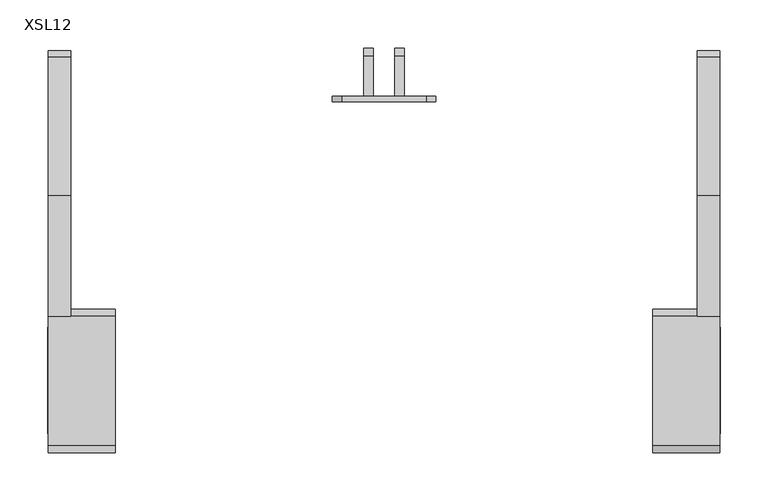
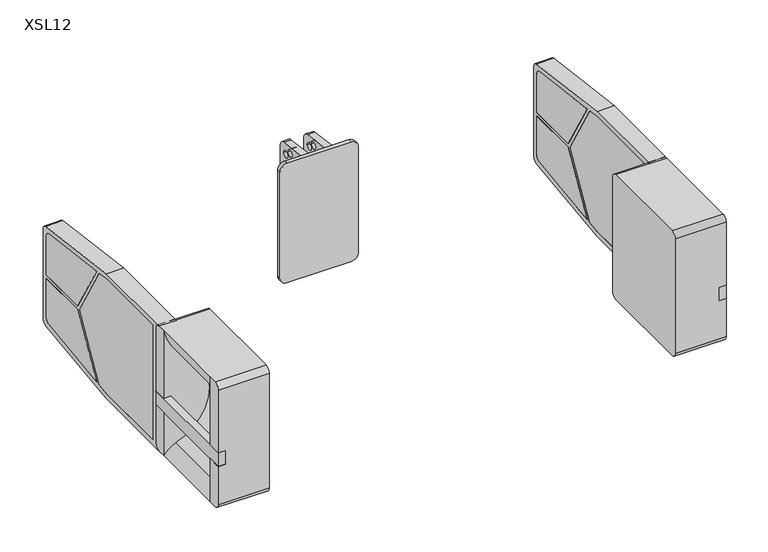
"""IFC4 building model written with IfcOpenShell, lengths in millimetres: proxy geometry, d&b SL-Series XSL : XSL12."""

from ifc_helpers import new_model, si_unit, point, frame, frame_2d, origin, place, context, project, spatial, polyline, circle_curve, trimmed, segment, composite_curve, outline, extrude, source, transform, mapped, element, save
from ifc_brep_helpers import plane_surface, cylinder_surface, revolved_surface, advanced_brep


def xsl12_895e49e3(model_context):
    return source(origin(), model_context, "Body", "SolidModel", [
        extrude(outline(composite_curve([segment(trimmed(circle_curve(frame_2d((119.6410514, 66.6180129)), 7.5), [point((120.5875427, 74.0580501))], [point((127.1410514, 66.6180129))], False, "CARTESIAN"), True, "CONTINUOUS"), segment(polyline([(127.1410514, 66.6180129), (127.1410514, 10.5484681), (51.7834, 10.5484681), (6.7553622, 88.5393174), (120.5875427, 74.0580501)]), True, "CONTINUOUS")], self_intersect=False)), frame((150.0, 0.0, 0.0), z_axis=(1.0, 0.0, 0.0), x_axis=(0.0, 1.0, 0.0)), (0.0, 0.0, 1.0), 23.6),
        extrude(outline(composite_curve([segment(polyline([(120.5875427, -57.9611139), (6.7552861, -72.4423908), (51.7833295, 5.5484681), (127.1410514, 5.5484681), (127.1410514, -50.5210766)]), True, "CONTINUOUS"), segment(trimmed(circle_curve(frame_2d((119.6410514, -50.5210766)), 7.5), [point((127.1410514, -50.5210766))], [point((120.5875427, -57.9611139))], False, "CARTESIAN"), True, "CONTINUOUS")], self_intersect=False)), frame((150.0, 0.0, 0.0), z_axis=(1.0, 0.0, 0.0), x_axis=(0.0, 1.0, 0.0)), (0.0, 0.0, 1.0), 23.6),
        extrude(outline(polyline([(-126.8744027, 91.5485291), (-16.8989996, 91.5485291), (0.5241915, 89.3320216), (47.4532377, 8.0485291), (0.5241154, -73.2350951), (-16.8980401, -75.4514709), (-126.8744027, -75.4514709), (-126.8744027, 91.5485291)])), frame((150.0, 0.0, 0.0), z_axis=(1.0, 0.0, 0.0), x_axis=(0.0, 1.0, 0.0)), (0.0, 0.0, 1.0), 23.6),
        extrude(outline(composite_curve([segment(trimmed(circle_curve(frame_2d((-141.8744027, -75.4514709)), 7.5), [point((-141.8744027, -82.9514709))], [point((-134.3744027, -75.4514709))], True, "CARTESIAN"), True, "CONTINUOUS"), segment(polyline([(-134.3744027, -75.4514709), (-134.3744027, 91.5485291)]), True, "CONTINUOUS"), segment(trimmed(circle_curve(frame_2d((-141.8744027, 91.5485291)), 7.5), [point((-134.3744027, 91.5485291))], [point((-141.8744027, 99.0485291))], True, "CARTESIAN"), True, "CONTINUOUS"), segment(polyline([(-141.8744027, 99.0485291), (-16.4238546, 99.0485291), (128.0875427, 80.6643766)]), True, "CONTINUOUS"), segment(trimmed(circle_curve(frame_2d((127.1410514, 73.2243394)), 7.5), [point((128.0875427, 80.6643766))], [point((134.6410514, 73.2243394))], False, "CARTESIAN"), True, "CONTINUOUS"), segment(polyline([(134.6410514, 73.2243394), (134.6410514, -57.1274031)]), True, "CONTINUOUS"), segment(trimmed(circle_curve(frame_2d((127.1410514, -57.1274031)), 7.5), [point((134.6410514, -57.1274031))], [point((128.0875427, -64.5674404))], False, "CARTESIAN"), True, "CONTINUOUS"), segment(polyline([(128.0875427, -64.5674404), (-16.422895, -82.9514709), (-141.8744027, -82.9514709)]), True, "CONTINUOUS")], self_intersect=False), holes=[polyline([(-126.8744027, 91.5485291), (-126.8744027, -75.4514709), (-16.8980401, -75.4514709), (0.5241154, -73.2350951), (47.4532377, 8.0485291), (0.5241915, 89.3320216), (-16.8989996, 91.5485291), (-126.8744027, 91.5485291)]), composite_curve([segment(polyline([(6.7552861, -72.4423908), (120.5875427, -57.9611139)]), True, "CONTINUOUS"), segment(trimmed(circle_curve(frame_2d((119.6410514, -50.5210766)), 7.5), [point((120.5875427, -57.9611139))], [point((127.1410514, -50.5210766))], True, "CARTESIAN"), True, "CONTINUOUS"), segment(polyline([(127.1410514, -50.5210766), (127.1410514, 5.5484681), (51.7833295, 5.5484681), (6.7552861, -72.4423908)]), True, "CONTINUOUS")], self_intersect=False), composite_curve([segment(polyline([(51.7834, 10.5484681), (127.1410514, 10.5484681), (127.1410514, 66.6180129)]), True, "CONTINUOUS"), segment(trimmed(circle_curve(frame_2d((119.6410514, 66.6180129)), 7.5), [point((127.1410514, 66.6180129))], [point((120.5875427, 74.0580501))], True, "CARTESIAN"), True, "CONTINUOUS"), segment(polyline([(120.5875427, 74.0580501), (6.7553622, 88.5393174), (51.7834, 10.5484681)]), True, "CONTINUOUS")], self_intersect=False)]), frame((150.0, 0.0, 0.0), z_axis=(1.0, 0.0, 0.0), x_axis=(0.0, 1.0, 0.0)), (0.0, 0.0, 1.0), 23.6),
        advanced_brep(
        [(220.0, -283.8744027, -75.4514709), (220.0, -276.3744027, -82.9514709), (220.0, -141.8744027, -82.9514709), (220.0, -134.3744027, -75.4514709), (220.0, -134.3744027, 91.5485291), (220.0, -141.8744027, 99.0485291), (220.0, -276.3744027, 99.0485291), (220.0, -283.8744027, 91.5485291), (150.0, -264.1147345, -82.9514709), (150.0, -276.3744027, -82.9514709), (150.0, -283.8744027, -75.4514709), (150.0, -283.8744027, -19.9757953), (150.0, -264.1147345, -19.9757953), (150.0, -276.3744027, 99.0485291), (150.0, -264.1147345, 99.0485291), (150.0, -264.1147345, 0.0727386), (150.0, -283.8744027, 0.0727386), (150.0, -283.8744027, 91.5485291), (150.0, -153.1340709, -82.9514709), (150.0, -153.1340709, -19.9757953), (150.0, -134.3744027, -19.9757953), (150.0, -134.3744027, -75.4514709), (150.0, -141.8744027, -82.9514709), (150.0, -141.8744027, 99.0485291), (150.0, -134.3744027, 91.5485291), (150.0, -134.3744027, 0.0727386), (150.0, -153.1340709, 0.0727386), (150.0, -153.1340709, 99.0485291), (160.0, -283.8744027, 0.0727386), (160.0, -283.8744027, -19.9757953), (160.0, -264.1147345, 0.0727386), (160.0, -264.1147345, -19.9757953), (181.2028278, -264.1147345, 53.0793139), (166.9361288, -264.1147345, -70.0489199), (166.9361288, -153.1340709, -70.0489199), (181.2028278, -153.1340709, 53.0793139), (160.0, -153.1340709, 0.0727386), (160.0, -153.1340709, -19.9757953), (160.0, -134.3744027, 0.0727386), (160.0, -134.3744027, -19.9757953)],
        [
            (0, 1, circle_curve(frame((220.0, -276.3744027, -75.4514709), z_axis=(1.0, 0.0, 0.0), x_axis=(0.0, -1.0, 0.0)), 7.5)),
            (1, 2),
            (2, 3, circle_curve(frame((220.0, -141.8744027, -75.4514709), z_axis=(1.0, 0.0, 0.0), x_axis=(0.0, -1.0, 0.0)), 7.5)),
            (3, 4),
            (4, 5, circle_curve(frame((220.0, -141.8744027, 91.5485291), z_axis=(1.0, 0.0, 0.0), x_axis=(0.0, -1.0, 0.0)), 7.5)),
            (5, 6),
            (6, 7, circle_curve(frame((220.0, -276.3744027, 91.5485291), z_axis=(1.0, 0.0, 0.0), x_axis=(0.0, -1.0, 0.0)), 7.5)),
            (7, 0),
            (8, 9),
            (9, 10, circle_curve(frame((150.0, -276.3744027, -75.4514709), z_axis=(-1.0, 0.0, 0.0), x_axis=(0.0, -1.0, 0.0)), 7.5)),
            (10, 11),
            (11, 12),
            (12, 8),
            (13, 14),
            (14, 15),
            (15, 16),
            (16, 17),
            (17, 13, circle_curve(frame((150.0, -276.3744027, 91.5485291), z_axis=(-1.0, 0.0, 0.0), x_axis=(0.0, -1.0, 0.0)), 7.5)),
            (18, 19),
            (19, 20),
            (20, 21),
            (21, 22, circle_curve(frame((150.0, -141.8744027, -75.4514709), z_axis=(-1.0, 0.0, 0.0), x_axis=(0.0, -1.0, 0.0)), 7.5)),
            (22, 18),
            (23, 24, circle_curve(frame((150.0, -141.8744027, 91.5485291), z_axis=(-1.0, 0.0, 0.0), x_axis=(0.0, -1.0, 0.0)), 7.5)),
            (24, 25),
            (25, 26),
            (26, 27),
            (27, 23),
            (10, 0),
            (7, 17),
            (16, 28),
            (28, 29),
            (29, 11),
            (1, 9),
            (8, 18),
            (22, 2),
            (5, 23),
            (27, 14),
            (13, 6),
            (15, 30),
            (30, 28),
            (12, 31),
            (31, 30),
            (14, 32, circle_curve(frame((219.0930544, -264.1147345, 112.3727956), z_axis=(0.0, -1.0, 0.0), x_axis=(1.0, 0.0, 0.0)), 70.3660873)),
            (32, 33, circle_curve(frame((144.081976, -264.1147345, -5.0101923), z_axis=(0.0, 1.0, 0.0), x_axis=(1.0, 0.0, 0.0)), 68.9372786)),
            (33, 8, circle_curve(frame((178.3936279, -264.1147345, -102.6548612), z_axis=(0.0, -1.0, 0.0), x_axis=(1.0, 0.0, 0.0)), 34.5604065)),
            (29, 31),
            (18, 34, circle_curve(frame((178.3936279, -153.1340709, -102.6548612), z_axis=(0.0, 1.0, 0.0), x_axis=(1.0, 0.0, 0.0)), 34.5604065)),
            (34, 35, circle_curve(frame((144.081976, -153.1340709, -5.0101923), z_axis=(0.0, -1.0, 0.0), x_axis=(1.0, 0.0, 0.0)), 68.9372786)),
            (35, 27, circle_curve(frame((219.0930544, -153.1340709, 112.3727956), z_axis=(0.0, 1.0, 0.0), x_axis=(1.0, 0.0, 0.0)), 70.3660873)),
            (26, 36),
            (36, 37),
            (37, 19),
            (25, 38),
            (38, 36),
            (20, 39),
            (39, 38),
            (24, 4),
            (3, 21),
            (37, 39),
            (34, 33),
            (32, 35),
        ],
        [
            plane_surface(frame((220.0, -283.8744027, 91.5485291), z_axis=(1.0, 0.0, 0.0), x_axis=(0.0, 0.0, -1.0))),
            plane_surface(frame((150.0, -283.8744027, 91.5485291), z_axis=(-1.0, 0.0, 0.0), x_axis=(0.0, 0.0, 1.0))),
            plane_surface(frame((220.0, -283.8744027, 91.5485291), z_axis=(0.0, -1.0, 0.0), x_axis=(-1.0, 0.0, 0.0))),
            plane_surface(frame((220.0, -276.3744027, -82.9514709), z_axis=(0.0, 0.0, -1.0), x_axis=(-1.0, 0.0, 0.0))),
            plane_surface(frame((220.0, -264.1147345, 99.0485291), z_axis=(0.0, 0.0, 1.0), x_axis=(-1.0, 0.0, 0.0))),
            plane_surface(frame((220.0, -283.8744027, 0.0727386), z_axis=(0.0, 0.0, -1.0), x_axis=(-1.0, 0.0, 0.0))),
            plane_surface(frame((220.0, -264.1147345, 0.0727386), z_axis=(0.0, 1.0, 0.0), x_axis=(-1.0, 0.0, 0.0))),
            plane_surface(frame((220.0, -264.1147345, -19.9757953), z_axis=(0.0, 0.0, 1.0), x_axis=(-1.0, 0.0, 0.0))),
            plane_surface(frame((220.0, -153.1340709, 99.0485291), z_axis=(0.0, -1.0, 0.0), x_axis=(-1.0, 0.0, 0.0))),
            plane_surface(frame((220.0, -153.1340709, 0.0727386), z_axis=(0.0, 0.0, -1.0), x_axis=(-1.0, 0.0, 0.0))),
            plane_surface(frame((220.0, -134.3744027, 0.0727386), z_axis=(0.0, 1.0, 0.0), x_axis=(-1.0, 0.0, 0.0))),
            plane_surface(frame((220.0, -134.3744027, -19.9757953), z_axis=(0.0, 0.0, 1.0), x_axis=(-1.0, 0.0, 0.0))),
            plane_surface(frame((160.0, -257.8744027, -19.9757953), z_axis=(-1.0, 0.0, 0.0), x_axis=(0.0, -1.0, 0.0))),
            revolved_surface(polyline([(213.0192546, -264.1147345, -5.0101923), (213.0192546, -153.1340709, -5.0101923)]), (144.081976, -264.1147345, -5.0101923), (0.0, -1.0, 0.0)),
            cylinder_surface(frame((150.0, -276.3744027, 91.5485291), z_axis=(1.0, 0.0, 0.0), x_axis=(0.0, -1.0, 0.0)), 7.5),
            cylinder_surface(frame((150.0, -276.3744027, -75.4514709), z_axis=(1.0, 0.0, 0.0), x_axis=(0.0, -1.0, 0.0)), 7.5),
            cylinder_surface(frame((150.0, -141.8744027, 91.5485291), z_axis=(1.0, 0.0, 0.0), x_axis=(0.0, -1.0, 0.0)), 7.5),
            cylinder_surface(frame((150.0, -141.8744027, -75.4514709), z_axis=(1.0, 0.0, 0.0), x_axis=(0.0, -1.0, 0.0)), 7.5),
            cylinder_surface(frame((219.0930544, -264.1147345, 112.3727956), z_axis=(0.0, 1.0, 0.0), x_axis=(1.0, 0.0, 0.0)), 70.3660873),
            cylinder_surface(frame((178.3936279, -264.1147345, -102.6548612), z_axis=(0.0, 1.0, 0.0), x_axis=(1.0, 0.0, 0.0)), 34.5604065),
        ],
        [
            (0, [[1, 2, 3, 4, 5, 6, 7, 8]]),
            (1, [[9, 10, 11, 12, 13]]),
            (1, [[14, 15, 16, 17, 18]]),
            (1, [[19, 20, 21, 22, 23]]),
            (1, [[24, 25, 26, 27, 28]]),
            (2, [[-11, 29, -8, 30, -17, 31, 32, 33]]),
            (3, [[-2, 34, -9, 35, -23, 36]]),
            (4, [[-6, 37, -28, 38, -14, 39]]),
            (5, [[-16, 40, 41, -31]]),
            (6, [[-13, 42, 43, -40, -15, 44, 45, 46]]),
            (7, [[-12, -33, 47, -42]]),
            (8, [[-19, 48, 49, 50, -27, 51, 52, 53]]),
            (9, [[-26, 54, 55, -51]]),
            (10, [[-21, 56, 57, -54, -25, 58, -4, 59]]),
            (11, [[-20, -53, 60, -56]]),
            (12, [[-32, -41, -43, -47]]),
            (12, [[-52, -55, -57, -60]]),
            (13, [[61, -45, 62, -49]]),
            (14, [[-7, -39, -18, -30]]),
            (15, [[-1, -29, -10, -34]]),
            (16, [[-5, -58, -24, -37]]),
            (17, [[-3, -36, -22, -59]]),
            (18, [[-38, -50, -62, -44]]),
            (19, [[-35, -46, -61, -48]]),
        ],
    ),
        extrude(outline(polyline([(160.0, -134.3744027), (160.0, -283.8744027), (150.0, -283.8744027), (150.0, -134.3744027), (160.0, -134.3744027)])), frame((0.0, 0.0, -19.9757953), z_axis=(0.0, 0.0, 1.0), x_axis=(1.0, 0.0, 0.0)), (0.0, 0.0, 1.0), 20.0485339),
        extrude(outline(composite_curve([segment(polyline([(120.5875427, -57.9611139), (6.7552861, -72.4423908), (51.7833295, 5.5484681), (127.1410514, 5.5484681), (127.1410514, -50.5210766)]), True, "CONTINUOUS"), segment(trimmed(circle_curve(frame_2d((119.6410514, -50.5210766)), 7.5), [point((127.1410514, -50.5210766))], [point((120.5875427, -57.9611139))], False, "CARTESIAN"), True, "CONTINUOUS")], self_intersect=False)), frame((826.4, 0.0, 0.0), z_axis=(1.0, 0.0, 0.0), x_axis=(0.0, 1.0, 0.0)), (0.0, 0.0, 1.0), 23.6),
        extrude(outline(composite_curve([segment(trimmed(circle_curve(frame_2d((119.6410514, 66.6180129)), 7.5), [point((120.5875427, 74.0580501))], [point((127.1410514, 66.6180129))], False, "CARTESIAN"), True, "CONTINUOUS"), segment(polyline([(127.1410514, 66.6180129), (127.1410514, 10.5484681), (51.7834, 10.5484681), (6.7553622, 88.5393174), (120.5875427, 74.0580501)]), True, "CONTINUOUS")], self_intersect=False)), frame((826.4, 0.0, 0.0), z_axis=(1.0, 0.0, 0.0), x_axis=(0.0, 1.0, 0.0)), (0.0, 0.0, 1.0), 23.6),
        extrude(outline(polyline([(-126.8744027, 91.5485291), (-16.8989996, 91.5485291), (0.5241915, 89.3320216), (47.4532377, 8.0485291), (0.5241154, -73.2350951), (-16.8980401, -75.4514709), (-126.8744027, -75.4514709), (-126.8744027, 91.5485291)])), frame((826.4, 0.0, 0.0), z_axis=(1.0, 0.0, 0.0), x_axis=(0.0, 1.0, 0.0)), (0.0, 0.0, 1.0), 23.6),
        extrude(outline(composite_curve([segment(trimmed(circle_curve(frame_2d((-141.8744027, -75.4514709)), 7.5), [point((-141.8744027, -82.9514709))], [point((-134.3744027, -75.4514709))], True, "CARTESIAN"), True, "CONTINUOUS"), segment(polyline([(-134.3744027, -75.4514709), (-134.3744027, 91.5485291)]), True, "CONTINUOUS"), segment(trimmed(circle_curve(frame_2d((-141.8744027, 91.5485291)), 7.5), [point((-134.3744027, 91.5485291))], [point((-141.8744027, 99.0485291))], True, "CARTESIAN"), True, "CONTINUOUS"), segment(polyline([(-141.8744027, 99.0485291), (-16.4238546, 99.0485291), (128.0875427, 80.6643766)]), True, "CONTINUOUS"), segment(trimmed(circle_curve(frame_2d((127.1410514, 73.2243394)), 7.5), [point((128.0875427, 80.6643766))], [point((134.6410514, 73.2243394))], False, "CARTESIAN"), True, "CONTINUOUS"), segment(polyline([(134.6410514, 73.2243394), (134.6410514, -57.1274031)]), True, "CONTINUOUS"), segment(trimmed(circle_curve(frame_2d((127.1410514, -57.1274031)), 7.5), [point((134.6410514, -57.1274031))], [point((128.0875427, -64.5674404))], False, "CARTESIAN"), True, "CONTINUOUS"), segment(polyline([(128.0875427, -64.5674404), (-16.422895, -82.9514709), (-141.8744027, -82.9514709)]), True, "CONTINUOUS")], self_intersect=False), holes=[polyline([(-126.8744027, 91.5485291), (-126.8744027, -75.4514709), (-16.8980401, -75.4514709), (0.5241154, -73.2350951), (47.4532377, 8.0485291), (0.5241915, 89.3320216), (-16.8989996, 91.5485291), (-126.8744027, 91.5485291)]), composite_curve([segment(polyline([(6.7552861, -72.4423908), (120.5875427, -57.9611139)]), True, "CONTINUOUS"), segment(trimmed(circle_curve(frame_2d((119.6410514, -50.5210766)), 7.5), [point((120.5875427, -57.9611139))], [point((127.1410514, -50.5210766))], True, "CARTESIAN"), True, "CONTINUOUS"), segment(polyline([(127.1410514, -50.5210766), (127.1410514, 5.5484681), (51.7833295, 5.5484681), (6.7552861, -72.4423908)]), True, "CONTINUOUS")], self_intersect=False), composite_curve([segment(polyline([(51.7834, 10.5484681), (127.1410514, 10.5484681), (127.1410514, 66.6180129)]), True, "CONTINUOUS"), segment(trimmed(circle_curve(frame_2d((119.6410514, 66.6180129)), 7.5), [point((127.1410514, 66.6180129))], [point((120.5875427, 74.0580501))], True, "CARTESIAN"), True, "CONTINUOUS"), segment(polyline([(120.5875427, 74.0580501), (6.7553622, 88.5393174), (51.7834, 10.5484681)]), True, "CONTINUOUS")], self_intersect=False)]), frame((826.4, 0.0, 0.0), z_axis=(1.0, 0.0, 0.0), x_axis=(0.0, 1.0, 0.0)), (0.0, 0.0, 1.0), 23.6),
        advanced_brep(
        [(780.0, -283.8744027, -75.4514709), (780.0, -283.8744027, 91.5485291), (780.0, -276.3744027, 99.0485291), (780.0, -141.8744027, 99.0485291), (780.0, -134.3744027, 91.5485291), (780.0, -134.3744027, -75.4514709), (780.0, -141.8744027, -82.9514709), (780.0, -276.3744027, -82.9514709), (850.0, -264.1147345, -82.9514709), (850.0, -264.1147345, -19.9757953), (850.0, -283.8744027, -19.9757953), (850.0, -283.8744027, -75.4514709), (850.0, -276.3744027, -82.9514709), (850.0, -141.8744027, 99.0485291), (850.0, -153.1340709, 99.0485291), (850.0, -153.1340709, 0.0727386), (850.0, -134.3744027, 0.0727386), (850.0, -134.3744027, 91.5485291), (850.0, -153.1340709, -82.9514709), (850.0, -141.8744027, -82.9514709), (850.0, -134.3744027, -75.4514709), (850.0, -134.3744027, -19.9757953), (850.0, -153.1340709, -19.9757953), (850.0, -276.3744027, 99.0485291), (850.0, -283.8744027, 91.5485291), (850.0, -283.8744027, 0.0727386), (850.0, -264.1147345, 0.0727386), (850.0, -264.1147345, 99.0485291), (840.0, -283.8744027, -19.9757953), (840.0, -283.8744027, 0.0727386), (840.0, -264.1147345, 0.0727386), (833.0638712, -264.1147345, -70.0489199), (818.7971722, -264.1147345, 53.0793139), (840.0, -264.1147345, -19.9757953), (840.0, -153.1340709, -19.9757953), (840.0, -153.1340709, 0.0727386), (818.7971722, -153.1340709, 53.0793139), (833.0638712, -153.1340709, -70.0489199), (840.0, -134.3744027, 0.0727386), (840.0, -134.3744027, -19.9757953)],
        [
            (0, 1),
            (1, 2, circle_curve(frame((780.0, -276.3744027, 91.5485291), z_axis=(-1.0, 0.0, 0.0), x_axis=(0.0, -1.0, 0.0)), 7.5)),
            (2, 3),
            (3, 4, circle_curve(frame((780.0, -141.8744027, 91.5485291), z_axis=(-1.0, 0.0, 0.0), x_axis=(0.0, -1.0, 0.0)), 7.5)),
            (4, 5),
            (5, 6, circle_curve(frame((780.0, -141.8744027, -75.4514709), z_axis=(-1.0, 0.0, 0.0), x_axis=(0.0, -1.0, 0.0)), 7.5)),
            (6, 7),
            (7, 0, circle_curve(frame((780.0, -276.3744027, -75.4514709), z_axis=(-1.0, 0.0, 0.0), x_axis=(0.0, -1.0, 0.0)), 7.5)),
            (8, 9),
            (9, 10),
            (10, 11),
            (11, 12, circle_curve(frame((850.0, -276.3744027, -75.4514709), z_axis=(1.0, 0.0, 0.0), x_axis=(0.0, -1.0, 0.0)), 7.5)),
            (12, 8),
            (13, 14),
            (14, 15),
            (15, 16),
            (16, 17),
            (17, 13, circle_curve(frame((850.0, -141.8744027, 91.5485291), z_axis=(1.0, 0.0, 0.0), x_axis=(0.0, -1.0, 0.0)), 7.5)),
            (18, 19),
            (19, 20, circle_curve(frame((850.0, -141.8744027, -75.4514709), z_axis=(1.0, 0.0, 0.0), x_axis=(0.0, -1.0, 0.0)), 7.5)),
            (20, 21),
            (21, 22),
            (22, 18),
            (23, 24, circle_curve(frame((850.0, -276.3744027, 91.5485291), z_axis=(1.0, 0.0, 0.0), x_axis=(0.0, -1.0, 0.0)), 7.5)),
            (24, 25),
            (25, 26),
            (26, 27),
            (27, 23),
            (10, 28),
            (28, 29),
            (29, 25),
            (24, 1),
            (0, 11),
            (6, 19),
            (18, 8),
            (12, 7),
            (2, 23),
            (27, 14),
            (13, 3),
            (29, 30),
            (30, 26),
            (8, 31, circle_curve(frame((821.6063721, -264.1147345, -102.6548612), z_axis=(0.0, -1.0, 0.0), x_axis=(-1.0, 0.0, 0.0)), 34.5604065)),
            (31, 32, circle_curve(frame((855.918024, -264.1147345, -5.0101923), z_axis=(0.0, 1.0, 0.0), x_axis=(-1.0, 0.0, 0.0)), 68.9372786)),
            (32, 27, circle_curve(frame((780.9069456, -264.1147345, 112.3727956), z_axis=(0.0, -1.0, 0.0), x_axis=(-1.0, 0.0, 0.0)), 70.3660873)),
            (30, 33),
            (33, 9),
            (33, 28),
            (22, 34),
            (34, 35),
            (35, 15),
            (14, 36, circle_curve(frame((780.9069456, -153.1340709, 112.3727956), z_axis=(0.0, 1.0, 0.0), x_axis=(-1.0, 0.0, 0.0)), 70.3660873)),
            (36, 37, circle_curve(frame((855.918024, -153.1340709, -5.0101923), z_axis=(0.0, -1.0, 0.0), x_axis=(-1.0, 0.0, 0.0)), 68.9372786)),
            (37, 18, circle_curve(frame((821.6063721, -153.1340709, -102.6548612), z_axis=(0.0, 1.0, 0.0), x_axis=(-1.0, 0.0, 0.0)), 34.5604065)),
            (35, 38),
            (38, 16),
            (20, 5),
            (4, 17),
            (38, 39),
            (39, 21),
            (39, 34),
            (36, 32),
            (31, 37),
        ],
        [
            plane_surface(frame((780.0, -283.8744027, 91.5485291), z_axis=(-1.0, 0.0, 0.0), x_axis=(0.0, 0.0, -1.0))),
            plane_surface(frame((850.0, -283.8744027, 91.5485291), z_axis=(1.0, 0.0, 0.0), x_axis=(0.0, 0.0, 1.0))),
            plane_surface(frame((780.0, -283.8744027, 91.5485291), z_axis=(0.0, -1.0, 0.0), x_axis=(1.0, 0.0, 0.0))),
            plane_surface(frame((780.0, -276.3744027, -82.9514709), z_axis=(0.0, 0.0, -1.0), x_axis=(1.0, 0.0, 0.0))),
            plane_surface(frame((780.0, -264.1147345, 99.0485291), z_axis=(0.0, 0.0, 1.0), x_axis=(1.0, 0.0, 0.0))),
            plane_surface(frame((780.0, -283.8744027, 0.0727386), z_axis=(0.0, 0.0, -1.0), x_axis=(1.0, 0.0, 0.0))),
            plane_surface(frame((780.0, -264.1147345, 0.0727386), z_axis=(0.0, 1.0, 0.0), x_axis=(1.0, 0.0, 0.0))),
            plane_surface(frame((780.0, -264.1147345, -19.9757953), z_axis=(0.0, 0.0, 1.0), x_axis=(1.0, 0.0, 0.0))),
            plane_surface(frame((780.0, -153.1340709, 99.0485291), z_axis=(0.0, -1.0, 0.0), x_axis=(1.0, 0.0, 0.0))),
            plane_surface(frame((780.0, -153.1340709, 0.0727386), z_axis=(0.0, 0.0, -1.0), x_axis=(1.0, 0.0, 0.0))),
            plane_surface(frame((780.0, -134.3744027, 0.0727386), z_axis=(0.0, 1.0, 0.0), x_axis=(1.0, 0.0, 0.0))),
            plane_surface(frame((780.0, -134.3744027, -19.9757953), z_axis=(0.0, 0.0, 1.0), x_axis=(1.0, 0.0, 0.0))),
            plane_surface(frame((840.0, -257.8744027, -19.9757953), z_axis=(1.0, 0.0, 0.0), x_axis=(0.0, -1.0, 0.0))),
            revolved_surface(polyline([(786.9807453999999, -264.1147345, -5.0101923), (786.9807453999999, -153.1340709, -5.0101923)]), (855.918024, -264.1147345, -5.0101923), (0.0, -1.0, 0.0)),
            cylinder_surface(frame((850.0, -276.3744027, 91.5485291), z_axis=(-1.0, 0.0, 0.0), x_axis=(0.0, -1.0, 0.0)), 7.5),
            cylinder_surface(frame((850.0, -276.3744027, -75.4514709), z_axis=(-1.0, 0.0, 0.0), x_axis=(0.0, -1.0, 0.0)), 7.5),
            cylinder_surface(frame((850.0, -141.8744027, 91.5485291), z_axis=(-1.0, 0.0, 0.0), x_axis=(0.0, -1.0, 0.0)), 7.5),
            cylinder_surface(frame((850.0, -141.8744027, -75.4514709), z_axis=(-1.0, 0.0, 0.0), x_axis=(0.0, -1.0, 0.0)), 7.5),
            cylinder_surface(frame((780.9069456, -264.1147345, 112.3727956), z_axis=(0.0, 1.0, 0.0), x_axis=(-1.0, 0.0, 0.0)), 70.3660873),
            cylinder_surface(frame((821.6063721, -264.1147345, -102.6548612), z_axis=(0.0, 1.0, 0.0), x_axis=(-1.0, 0.0, 0.0)), 34.5604065),
        ],
        [
            (0, [[1, 2, 3, 4, 5, 6, 7, 8]]),
            (1, [[9, 10, 11, 12, 13]]),
            (1, [[14, 15, 16, 17, 18]]),
            (1, [[19, 20, 21, 22, 23]]),
            (1, [[24, 25, 26, 27, 28]]),
            (2, [[29, 30, 31, -25, 32, -1, 33, -11]]),
            (3, [[34, -19, 35, -13, 36, -7]]),
            (4, [[37, -28, 38, -14, 39, -3]]),
            (5, [[-31, 40, 41, -26]]),
            (6, [[42, 43, 44, -27, -41, 45, 46, -9]]),
            (7, [[-46, 47, -29, -10]]),
            (8, [[48, 49, 50, -15, 51, 52, 53, -23]]),
            (9, [[-50, 54, 55, -16]]),
            (10, [[56, -5, 57, -17, -55, 58, 59, -21]]),
            (11, [[-59, 60, -48, -22]]),
            (12, [[-47, -45, -40, -30]]),
            (12, [[-60, -58, -54, -49]]),
            (13, [[-52, 61, -43, 62]]),
            (14, [[-32, -24, -37, -2]]),
            (15, [[-36, -12, -33, -8]]),
            (16, [[-39, -18, -57, -4]]),
            (17, [[-56, -20, -34, -6]]),
            (18, [[-44, -61, -51, -38]]),
            (19, [[-53, -62, -42, -35]]),
        ],
    ),
        extrude(outline(polyline([(840.0, -134.3744027), (850.0, -134.3744027), (850.0, -283.8744027), (840.0, -283.8744027), (840.0, -134.3744027)])), frame((0.0, 0.0, -19.9757953), z_axis=(0.0, 0.0, 1.0), x_axis=(1.0, 0.0, 0.0)), (0.0, 0.0, 1.0), 20.0485339),
        extrude(outline(composite_curve([segment(polyline([(87.3755973, 93.0715178), (128.8875869, 87.7905262)]), True, "CONTINUOUS"), segment(trimmed(circle_curve(frame_2d((127.6255973, 77.8704767)), 10.0), [point((128.8875869, 87.7905262))], [point((137.6255973, 77.8704767))], False, "CARTESIAN"), True, "CONTINUOUS"), segment(polyline([(137.6255973, 77.8704767), (137.6255973, -66.0341249)]), True, "CONTINUOUS"), segment(trimmed(circle_curve(frame_2d((127.6255973, -66.0341249)), 10.0), [point((137.6255973, -66.0341249))], [point((132.8764293, -74.5446339))], False, "CARTESIAN"), True, "CONTINUOUS"), segment(trimmed(circle_curve(frame_2d((115.0236005, -45.6089034)), 34.0), [point((132.8764293, -74.5446339))], [point((125.2407991, -78.0374225))], False, "CARTESIAN"), True, "CONTINUOUS"), segment(trimmed(circle_curve(frame_2d((101.2003317, -1.7350246)), 80.0), [point((125.2407991, -78.0374225))], [point((87.3755973, -80.5314504))], False, "CARTESIAN"), True, "CONTINUOUS"), segment(polyline([(87.3755973, -80.5314504), (87.3755973, 93.0715178)]), True, "CONTINUOUS")], self_intersect=False), holes=[composite_curve([segment(trimmed(circle_curve(frame_2d((114.3755973, 80.3658751)), 4.75), [point((109.6255973, 80.3658751))], [point((119.1255973, 80.3658751))], True, "CARTESIAN"), True, "CONTINUOUS"), segment(trimmed(circle_curve(frame_2d((114.3755973, 80.3658751)), 4.75), [point((119.1255973, 80.3658751))], [point((109.6255973, 80.3658751))], True, "CARTESIAN"), True, "CONTINUOUS")], self_intersect=False), composite_curve([segment(trimmed(circle_curve(frame_2d((124.4755973, 72.9758751)), 4.75), [point((119.7255973, 72.9758751))], [point((129.2255973, 72.9758751))], True, "CARTESIAN"), True, "CONTINUOUS"), segment(trimmed(circle_curve(frame_2d((124.4755973, 72.9758751)), 4.75), [point((129.2255973, 72.9758751))], [point((119.7255973, 72.9758751))], True, "CARTESIAN"), True, "CONTINUOUS")], self_intersect=False), composite_curve([segment(trimmed(circle_curve(frame_2d((114.3755973, 64.3358751)), 4.75), [point((109.6255973, 64.3358751))], [point((119.1255973, 64.3358751))], True, "CARTESIAN"), True, "CONTINUOUS"), segment(trimmed(circle_curve(frame_2d((114.3755973, 64.3358751)), 4.75), [point((119.1255973, 64.3358751))], [point((109.6255973, 64.3358751))], True, "CARTESIAN"), True, "CONTINUOUS")], self_intersect=False), composite_curve([segment(trimmed(circle_curve(frame_2d((99.3755973, 55.8658751)), 4.75), [point((94.6255973, 55.8658751))], [point((104.1255973, 55.8658751))], True, "CARTESIAN"), True, "CONTINUOUS"), segment(trimmed(circle_curve(frame_2d((99.3755973, 55.8658751)), 4.75), [point((104.1255973, 55.8658751))], [point((94.6255973, 55.8658751))], True, "CARTESIAN"), True, "CONTINUOUS")], self_intersect=False), composite_curve([segment(trimmed(circle_curve(frame_2d((125.2755973, 56.9358751)), 4.75), [point((120.5255973, 56.9358751))], [point((130.0255973, 56.9358751))], True, "CARTESIAN"), True, "CONTINUOUS"), segment(trimmed(circle_curve(frame_2d((125.2755973, 56.9358751)), 4.75), [point((130.0255973, 56.9358751))], [point((120.5255973, 56.9358751))], True, "CARTESIAN"), True, "CONTINUOUS")], self_intersect=False), composite_curve([segment(trimmed(circle_curve(frame_2d((114.3755973, 48.2858751)), 4.75), [point((109.6255973, 48.2858751))], [point((119.1255973, 48.2858751))], True, "CARTESIAN"), True, "CONTINUOUS"), segment(trimmed(circle_curve(frame_2d((114.3755973, 48.2858751)), 4.75), [point((119.1255973, 48.2858751))], [point((109.6255973, 48.2858751))], True, "CARTESIAN"), True, "CONTINUOUS")], self_intersect=False), composite_curve([segment(trimmed(circle_curve(frame_2d((102.7855973, 42.7858751)), 4.75), [point((98.0355973, 42.7858751))], [point((107.5355973, 42.7858751))], True, "CARTESIAN"), True, "CONTINUOUS"), segment(trimmed(circle_curve(frame_2d((102.7855973, 42.7858751)), 4.75), [point((107.5355973, 42.7858751))], [point((98.0355973, 42.7858751))], True, "CARTESIAN"), True, "CONTINUOUS")], self_intersect=False), composite_curve([segment(trimmed(circle_curve(frame_2d((103.2255973, 9.7958751)), 4.75), [point((98.4755973, 9.7958751))], [point((107.9755973, 9.7958751))], True, "CARTESIAN"), True, "CONTINUOUS"), segment(trimmed(circle_curve(frame_2d((103.2255973, 9.7958751)), 4.75), [point((107.9755973, 9.7958751))], [point((98.4755973, 9.7958751))], True, "CARTESIAN"), True, "CONTINUOUS")], self_intersect=False), composite_curve([segment(trimmed(circle_curve(frame_2d((102.9655973, 26.4158751)), 4.75), [point((98.2155973, 26.4158751))], [point((107.7155973, 26.4158751))], True, "CARTESIAN"), True, "CONTINUOUS"), segment(trimmed(circle_curve(frame_2d((102.9655973, 26.4158751)), 4.75), [point((107.7155973, 26.4158751))], [point((98.2155973, 26.4158751))], True, "CARTESIAN"), True, "CONTINUOUS")], self_intersect=False), composite_curve([segment(trimmed(circle_curve(frame_2d((114.3755973, 32.2258751)), 4.75), [point((109.6255973, 32.2258751))], [point((119.1255973, 32.2258751))], True, "CARTESIAN"), True, "CONTINUOUS"), segment(trimmed(circle_curve(frame_2d((114.3755973, 32.2258751)), 4.75), [point((119.1255973, 32.2258751))], [point((109.6255973, 32.2258751))], True, "CARTESIAN"), True, "CONTINUOUS")], self_intersect=False), composite_curve([segment(trimmed(circle_curve(frame_2d((125.6755973, 40.8658751)), 4.75), [point((120.9255973, 40.8658751))], [point((130.4255973, 40.8658751))], True, "CARTESIAN"), True, "CONTINUOUS"), segment(trimmed(circle_curve(frame_2d((125.6755973, 40.8658751)), 4.75), [point((130.4255973, 40.8658751))], [point((120.9255973, 40.8658751))], True, "CARTESIAN"), True, "CONTINUOUS")], self_intersect=False), composite_curve([segment(trimmed(circle_curve(frame_2d((126.0755973, 24.8458751)), 4.75), [point((121.3255973, 24.8458751))], [point((130.8255973, 24.8458751))], True, "CARTESIAN"), True, "CONTINUOUS"), segment(trimmed(circle_curve(frame_2d((126.0755973, 24.8458751)), 4.75), [point((130.8255973, 24.8458751))], [point((121.3255973, 24.8458751))], True, "CARTESIAN"), True, "CONTINUOUS")], self_intersect=False), composite_curve([segment(trimmed(circle_curve(frame_2d((114.3755973, 16.1758751)), 4.75), [point((109.6255973, 16.1758751))], [point((119.1255973, 16.1758751))], True, "CARTESIAN"), True, "CONTINUOUS"), segment(trimmed(circle_curve(frame_2d((114.3755973, 16.1758751)), 4.75), [point((119.1255973, 16.1758751))], [point((109.6255973, 16.1758751))], True, "CARTESIAN"), True, "CONTINUOUS")], self_intersect=False), composite_curve([segment(trimmed(circle_curve(frame_2d((126.5755973, 8.9058751)), 4.75), [point((121.8255973, 8.9058751))], [point((131.3255973, 8.9058751))], True, "CARTESIAN"), True, "CONTINUOUS"), segment(trimmed(circle_curve(frame_2d((126.5755973, 8.9058751)), 4.75), [point((131.3255973, 8.9058751))], [point((121.8255973, 8.9058751))], True, "CARTESIAN"), True, "CONTINUOUS")], self_intersect=False), composite_curve([segment(trimmed(circle_curve(frame_2d((114.3755973, 0.1458751)), 4.75), [point((109.6255973, 0.1458751))], [point((119.1255973, 0.1458751))], True, "CARTESIAN"), True, "CONTINUOUS"), segment(trimmed(circle_curve(frame_2d((114.3755973, 0.1458751)), 4.75), [point((119.1255973, 0.1458751))], [point((109.6255973, 0.1458751))], True, "CARTESIAN"), True, "CONTINUOUS")], self_intersect=False), composite_curve([segment(trimmed(circle_curve(frame_2d((103.4255973, -6.6241249)), 4.75), [point((98.6755973, -6.6241249))], [point((108.1755973, -6.6241249))], True, "CARTESIAN"), True, "CONTINUOUS"), segment(trimmed(circle_curve(frame_2d((103.4255973, -6.6241249)), 4.75), [point((108.1755973, -6.6241249))], [point((98.6755973, -6.6241249))], True, "CARTESIAN"), True, "CONTINUOUS")], self_intersect=False), composite_curve([segment(trimmed(circle_curve(frame_2d((127.3755973, -6.8941249)), 4.75), [point((122.6255973, -6.8941249))], [point((132.1255973, -6.8941249))], True, "CARTESIAN"), True, "CONTINUOUS"), segment(trimmed(circle_curve(frame_2d((127.3755973, -6.8941249)), 4.75), [point((132.1255973, -6.8941249))], [point((122.6255973, -6.8941249))], True, "CARTESIAN"), True, "CONTINUOUS")], self_intersect=False), composite_curve([segment(trimmed(circle_curve(frame_2d((114.3755973, -15.8041249)), 4.75), [point((109.6255973, -15.8041249))], [point((119.1255973, -15.8041249))], True, "CARTESIAN"), True, "CONTINUOUS"), segment(trimmed(circle_curve(frame_2d((114.3755973, -15.8041249)), 4.75), [point((119.1255973, -15.8041249))], [point((109.6255973, -15.8041249))], True, "CARTESIAN"), True, "CONTINUOUS")], self_intersect=False), composite_curve([segment(trimmed(circle_curve(frame_2d((103.5755973, -22.8841249)), 4.75), [point((98.8255973, -22.8841249))], [point((108.3255973, -22.8841249))], True, "CARTESIAN"), True, "CONTINUOUS"), segment(trimmed(circle_curve(frame_2d((103.5755973, -22.8841249)), 4.75), [point((108.3255973, -22.8841249))], [point((98.8255973, -22.8841249))], True, "CARTESIAN"), True, "CONTINUOUS")], self_intersect=False), composite_curve([segment(trimmed(circle_curve(frame_2d((128.3755973, -22.5141249)), 4.75), [point((123.6255973, -22.5141249))], [point((133.1255973, -22.5141249))], True, "CARTESIAN"), True, "CONTINUOUS"), segment(trimmed(circle_curve(frame_2d((128.3755973, -22.5141249)), 4.75), [point((133.1255973, -22.5141249))], [point((123.6255973, -22.5141249))], True, "CARTESIAN"), True, "CONTINUOUS")], self_intersect=False), composite_curve([segment(trimmed(circle_curve(frame_2d((129.2755973, -39.1341249)), 4.75), [point((124.5255973, -39.1341249))], [point((134.0255973, -39.1341249))], True, "CARTESIAN"), True, "CONTINUOUS"), segment(trimmed(circle_curve(frame_2d((129.2755973, -39.1341249)), 4.75), [point((134.0255973, -39.1341249))], [point((124.5255973, -39.1341249))], True, "CARTESIAN"), True, "CONTINUOUS")], self_intersect=False), composite_curve([segment(trimmed(circle_curve(frame_2d((114.3755973, -31.6841249)), 4.75), [point((109.6255973, -31.6841249))], [point((119.1255973, -31.6841249))], True, "CARTESIAN"), True, "CONTINUOUS"), segment(trimmed(circle_curve(frame_2d((114.3755973, -31.6841249)), 4.75), [point((119.1255973, -31.6841249))], [point((109.6255973, -31.6841249))], True, "CARTESIAN"), True, "CONTINUOUS")], self_intersect=False), composite_curve([segment(trimmed(circle_curve(frame_2d((103.5755973, -38.9941249)), 4.75), [point((98.8255973, -38.9941249))], [point((108.3255973, -38.9941249))], True, "CARTESIAN"), True, "CONTINUOUS"), segment(trimmed(circle_curve(frame_2d((103.5755973, -38.9941249)), 4.75), [point((108.3255973, -38.9941249))], [point((98.8255973, -38.9941249))], True, "CARTESIAN"), True, "CONTINUOUS")], self_intersect=False), composite_curve([segment(trimmed(circle_curve(frame_2d((114.3755973, -47.5341249)), 4.75), [point((109.6255973, -47.5341249))], [point((119.1255973, -47.5341249))], True, "CARTESIAN"), True, "CONTINUOUS"), segment(trimmed(circle_curve(frame_2d((114.3755973, -47.5341249)), 4.75), [point((119.1255973, -47.5341249))], [point((109.6255973, -47.5341249))], True, "CARTESIAN"), True, "CONTINUOUS")], self_intersect=False), composite_curve([segment(trimmed(circle_curve(frame_2d((103.4755973, -54.1341249)), 4.75), [point((98.7255973, -54.1341249))], [point((108.2255973, -54.1341249))], True, "CARTESIAN"), True, "CONTINUOUS"), segment(trimmed(circle_curve(frame_2d((103.4755973, -54.1341249)), 4.75), [point((108.2255973, -54.1341249))], [point((98.7255973, -54.1341249))], True, "CARTESIAN"), True, "CONTINUOUS")], self_intersect=False), composite_curve([segment(trimmed(circle_curve(frame_2d((110.3755973, -71.4841249)), 5.2), [point((105.1755973, -71.4841249))], [point((115.5755973, -71.4841249))], True, "CARTESIAN"), True, "CONTINUOUS"), segment(trimmed(circle_curve(frame_2d((110.3755973, -71.4841249)), 5.2), [point((115.5755973, -71.4841249))], [point((105.1755973, -71.4841249))], True, "CARTESIAN"), True, "CONTINUOUS")], self_intersect=False)]), frame((511.25, 0.0, 0.0), z_axis=(1.0, 0.0, 0.0), x_axis=(0.0, 1.0, 0.0)), (0.0, 0.0, 1.0), 10.0),
        extrude(outline(composite_curve([segment(polyline([(87.3755973, 93.0715178), (128.8875869, 87.7905262)]), True, "CONTINUOUS"), segment(trimmed(circle_curve(frame_2d((127.6255973, 77.8704767)), 10.0), [point((128.8875869, 87.7905262))], [point((137.6255973, 77.8704767))], False, "CARTESIAN"), True, "CONTINUOUS"), segment(polyline([(137.6255973, 77.8704767), (137.6255973, -66.0341249)]), True, "CONTINUOUS"), segment(trimmed(circle_curve(frame_2d((127.6255973, -66.0341249)), 10.0), [point((137.6255973, -66.0341249))], [point((132.8764293, -74.5446339))], False, "CARTESIAN"), True, "CONTINUOUS"), segment(trimmed(circle_curve(frame_2d((115.0236005, -45.6089034)), 34.0), [point((132.8764293, -74.5446339))], [point((125.2407991, -78.0374225))], False, "CARTESIAN"), True, "CONTINUOUS"), segment(trimmed(circle_curve(frame_2d((101.2003317, -1.7350246)), 80.0), [point((125.2407991, -78.0374225))], [point((87.3755973, -80.5314504))], False, "CARTESIAN"), True, "CONTINUOUS"), segment(polyline([(87.3755973, -80.5314504), (87.3755973, 93.0715178)]), True, "CONTINUOUS")], self_intersect=False), holes=[composite_curve([segment(trimmed(circle_curve(frame_2d((114.3755973, 80.3658751)), 4.75), [point((109.6255973, 80.3658751))], [point((119.1255973, 80.3658751))], True, "CARTESIAN"), True, "CONTINUOUS"), segment(trimmed(circle_curve(frame_2d((114.3755973, 80.3658751)), 4.75), [point((119.1255973, 80.3658751))], [point((109.6255973, 80.3658751))], True, "CARTESIAN"), True, "CONTINUOUS")], self_intersect=False), composite_curve([segment(trimmed(circle_curve(frame_2d((124.4755973, 72.9758751)), 4.75), [point((119.7255973, 72.9758751))], [point((129.2255973, 72.9758751))], True, "CARTESIAN"), True, "CONTINUOUS"), segment(trimmed(circle_curve(frame_2d((124.4755973, 72.9758751)), 4.75), [point((129.2255973, 72.9758751))], [point((119.7255973, 72.9758751))], True, "CARTESIAN"), True, "CONTINUOUS")], self_intersect=False), composite_curve([segment(trimmed(circle_curve(frame_2d((114.3755973, 64.3358751)), 4.75), [point((109.6255973, 64.3358751))], [point((119.1255973, 64.3358751))], True, "CARTESIAN"), True, "CONTINUOUS"), segment(trimmed(circle_curve(frame_2d((114.3755973, 64.3358751)), 4.75), [point((119.1255973, 64.3358751))], [point((109.6255973, 64.3358751))], True, "CARTESIAN"), True, "CONTINUOUS")], self_intersect=False), composite_curve([segment(trimmed(circle_curve(frame_2d((99.3755973, 55.8658751)), 4.75), [point((94.6255973, 55.8658751))], [point((104.1255973, 55.8658751))], True, "CARTESIAN"), True, "CONTINUOUS"), segment(trimmed(circle_curve(frame_2d((99.3755973, 55.8658751)), 4.75), [point((104.1255973, 55.8658751))], [point((94.6255973, 55.8658751))], True, "CARTESIAN"), True, "CONTINUOUS")], self_intersect=False), composite_curve([segment(trimmed(circle_curve(frame_2d((125.2755973, 56.9358751)), 4.75), [point((120.5255973, 56.9358751))], [point((130.0255973, 56.9358751))], True, "CARTESIAN"), True, "CONTINUOUS"), segment(trimmed(circle_curve(frame_2d((125.2755973, 56.9358751)), 4.75), [point((130.0255973, 56.9358751))], [point((120.5255973, 56.9358751))], True, "CARTESIAN"), True, "CONTINUOUS")], self_intersect=False), composite_curve([segment(trimmed(circle_curve(frame_2d((114.3755973, 48.2858751)), 4.75), [point((109.6255973, 48.2858751))], [point((119.1255973, 48.2858751))], True, "CARTESIAN"), True, "CONTINUOUS"), segment(trimmed(circle_curve(frame_2d((114.3755973, 48.2858751)), 4.75), [point((119.1255973, 48.2858751))], [point((109.6255973, 48.2858751))], True, "CARTESIAN"), True, "CONTINUOUS")], self_intersect=False), composite_curve([segment(trimmed(circle_curve(frame_2d((102.7855973, 42.7858751)), 4.75), [point((98.0355973, 42.7858751))], [point((107.5355973, 42.7858751))], True, "CARTESIAN"), True, "CONTINUOUS"), segment(trimmed(circle_curve(frame_2d((102.7855973, 42.7858751)), 4.75), [point((107.5355973, 42.7858751))], [point((98.0355973, 42.7858751))], True, "CARTESIAN"), True, "CONTINUOUS")], self_intersect=False), composite_curve([segment(trimmed(circle_curve(frame_2d((103.2255973, 9.7958751)), 4.75), [point((98.4755973, 9.7958751))], [point((107.9755973, 9.7958751))], True, "CARTESIAN"), True, "CONTINUOUS"), segment(trimmed(circle_curve(frame_2d((103.2255973, 9.7958751)), 4.75), [point((107.9755973, 9.7958751))], [point((98.4755973, 9.7958751))], True, "CARTESIAN"), True, "CONTINUOUS")], self_intersect=False), composite_curve([segment(trimmed(circle_curve(frame_2d((102.9655973, 26.4158751)), 4.75), [point((98.2155973, 26.4158751))], [point((107.7155973, 26.4158751))], True, "CARTESIAN"), True, "CONTINUOUS"), segment(trimmed(circle_curve(frame_2d((102.9655973, 26.4158751)), 4.75), [point((107.7155973, 26.4158751))], [point((98.2155973, 26.4158751))], True, "CARTESIAN"), True, "CONTINUOUS")], self_intersect=False), composite_curve([segment(trimmed(circle_curve(frame_2d((114.3755973, 32.2258751)), 4.75), [point((109.6255973, 32.2258751))], [point((119.1255973, 32.2258751))], True, "CARTESIAN"), True, "CONTINUOUS"), segment(trimmed(circle_curve(frame_2d((114.3755973, 32.2258751)), 4.75), [point((119.1255973, 32.2258751))], [point((109.6255973, 32.2258751))], True, "CARTESIAN"), True, "CONTINUOUS")], self_intersect=False), composite_curve([segment(trimmed(circle_curve(frame_2d((125.6755973, 40.8658751)), 4.75), [point((120.9255973, 40.8658751))], [point((130.4255973, 40.8658751))], True, "CARTESIAN"), True, "CONTINUOUS"), segment(trimmed(circle_curve(frame_2d((125.6755973, 40.8658751)), 4.75), [point((130.4255973, 40.8658751))], [point((120.9255973, 40.8658751))], True, "CARTESIAN"), True, "CONTINUOUS")], self_intersect=False), composite_curve([segment(trimmed(circle_curve(frame_2d((126.0755973, 24.8458751)), 4.75), [point((121.3255973, 24.8458751))], [point((130.8255973, 24.8458751))], True, "CARTESIAN"), True, "CONTINUOUS"), segment(trimmed(circle_curve(frame_2d((126.0755973, 24.8458751)), 4.75), [point((130.8255973, 24.8458751))], [point((121.3255973, 24.8458751))], True, "CARTESIAN"), True, "CONTINUOUS")], self_intersect=False), composite_curve([segment(trimmed(circle_curve(frame_2d((114.3755973, 16.1758751)), 4.75), [point((109.6255973, 16.1758751))], [point((119.1255973, 16.1758751))], True, "CARTESIAN"), True, "CONTINUOUS"), segment(trimmed(circle_curve(frame_2d((114.3755973, 16.1758751)), 4.75), [point((119.1255973, 16.1758751))], [point((109.6255973, 16.1758751))], True, "CARTESIAN"), True, "CONTINUOUS")], self_intersect=False), composite_curve([segment(trimmed(circle_curve(frame_2d((126.5755973, 8.9058751)), 4.75), [point((121.8255973, 8.9058751))], [point((131.3255973, 8.9058751))], True, "CARTESIAN"), True, "CONTINUOUS"), segment(trimmed(circle_curve(frame_2d((126.5755973, 8.9058751)), 4.75), [point((131.3255973, 8.9058751))], [point((121.8255973, 8.9058751))], True, "CARTESIAN"), True, "CONTINUOUS")], self_intersect=False), composite_curve([segment(trimmed(circle_curve(frame_2d((114.3755973, 0.1458751)), 4.75), [point((109.6255973, 0.1458751))], [point((119.1255973, 0.1458751))], True, "CARTESIAN"), True, "CONTINUOUS"), segment(trimmed(circle_curve(frame_2d((114.3755973, 0.1458751)), 4.75), [point((119.1255973, 0.1458751))], [point((109.6255973, 0.1458751))], True, "CARTESIAN"), True, "CONTINUOUS")], self_intersect=False), composite_curve([segment(trimmed(circle_curve(frame_2d((103.4255973, -6.6241249)), 4.75), [point((98.6755973, -6.6241249))], [point((108.1755973, -6.6241249))], True, "CARTESIAN"), True, "CONTINUOUS"), segment(trimmed(circle_curve(frame_2d((103.4255973, -6.6241249)), 4.75), [point((108.1755973, -6.6241249))], [point((98.6755973, -6.6241249))], True, "CARTESIAN"), True, "CONTINUOUS")], self_intersect=False), composite_curve([segment(trimmed(circle_curve(frame_2d((127.3755973, -6.8941249)), 4.75), [point((122.6255973, -6.8941249))], [point((132.1255973, -6.8941249))], True, "CARTESIAN"), True, "CONTINUOUS"), segment(trimmed(circle_curve(frame_2d((127.3755973, -6.8941249)), 4.75), [point((132.1255973, -6.8941249))], [point((122.6255973, -6.8941249))], True, "CARTESIAN"), True, "CONTINUOUS")], self_intersect=False), composite_curve([segment(trimmed(circle_curve(frame_2d((114.3755973, -15.8041249)), 4.75), [point((109.6255973, -15.8041249))], [point((119.1255973, -15.8041249))], True, "CARTESIAN"), True, "CONTINUOUS"), segment(trimmed(circle_curve(frame_2d((114.3755973, -15.8041249)), 4.75), [point((119.1255973, -15.8041249))], [point((109.6255973, -15.8041249))], True, "CARTESIAN"), True, "CONTINUOUS")], self_intersect=False), composite_curve([segment(trimmed(circle_curve(frame_2d((103.5755973, -22.8841249)), 4.75), [point((98.8255973, -22.8841249))], [point((108.3255973, -22.8841249))], True, "CARTESIAN"), True, "CONTINUOUS"), segment(trimmed(circle_curve(frame_2d((103.5755973, -22.8841249)), 4.75), [point((108.3255973, -22.8841249))], [point((98.8255973, -22.8841249))], True, "CARTESIAN"), True, "CONTINUOUS")], self_intersect=False), composite_curve([segment(trimmed(circle_curve(frame_2d((128.3755973, -22.5141249)), 4.75), [point((123.6255973, -22.5141249))], [point((133.1255973, -22.5141249))], True, "CARTESIAN"), True, "CONTINUOUS"), segment(trimmed(circle_curve(frame_2d((128.3755973, -22.5141249)), 4.75), [point((133.1255973, -22.5141249))], [point((123.6255973, -22.5141249))], True, "CARTESIAN"), True, "CONTINUOUS")], self_intersect=False), composite_curve([segment(trimmed(circle_curve(frame_2d((129.2755973, -39.1341249)), 4.75), [point((124.5255973, -39.1341249))], [point((134.0255973, -39.1341249))], True, "CARTESIAN"), True, "CONTINUOUS"), segment(trimmed(circle_curve(frame_2d((129.2755973, -39.1341249)), 4.75), [point((134.0255973, -39.1341249))], [point((124.5255973, -39.1341249))], True, "CARTESIAN"), True, "CONTINUOUS")], self_intersect=False), composite_curve([segment(trimmed(circle_curve(frame_2d((114.3755973, -31.6841249)), 4.75), [point((109.6255973, -31.6841249))], [point((119.1255973, -31.6841249))], True, "CARTESIAN"), True, "CONTINUOUS"), segment(trimmed(circle_curve(frame_2d((114.3755973, -31.6841249)), 4.75), [point((119.1255973, -31.6841249))], [point((109.6255973, -31.6841249))], True, "CARTESIAN"), True, "CONTINUOUS")], self_intersect=False), composite_curve([segment(trimmed(circle_curve(frame_2d((103.5755973, -38.9941249)), 4.75), [point((98.8255973, -38.9941249))], [point((108.3255973, -38.9941249))], True, "CARTESIAN"), True, "CONTINUOUS"), segment(trimmed(circle_curve(frame_2d((103.5755973, -38.9941249)), 4.75), [point((108.3255973, -38.9941249))], [point((98.8255973, -38.9941249))], True, "CARTESIAN"), True, "CONTINUOUS")], self_intersect=False), composite_curve([segment(trimmed(circle_curve(frame_2d((114.3755973, -47.5341249)), 4.75), [point((109.6255973, -47.5341249))], [point((119.1255973, -47.5341249))], True, "CARTESIAN"), True, "CONTINUOUS"), segment(trimmed(circle_curve(frame_2d((114.3755973, -47.5341249)), 4.75), [point((119.1255973, -47.5341249))], [point((109.6255973, -47.5341249))], True, "CARTESIAN"), True, "CONTINUOUS")], self_intersect=False), composite_curve([segment(trimmed(circle_curve(frame_2d((103.4755973, -54.1341249)), 4.75), [point((98.7255973, -54.1341249))], [point((108.2255973, -54.1341249))], True, "CARTESIAN"), True, "CONTINUOUS"), segment(trimmed(circle_curve(frame_2d((103.4755973, -54.1341249)), 4.75), [point((108.2255973, -54.1341249))], [point((98.7255973, -54.1341249))], True, "CARTESIAN"), True, "CONTINUOUS")], self_intersect=False), composite_curve([segment(trimmed(circle_curve(frame_2d((110.3755973, -71.4841249)), 5.2), [point((105.1755973, -71.4841249))], [point((115.5755973, -71.4841249))], True, "CARTESIAN"), True, "CONTINUOUS"), segment(trimmed(circle_curve(frame_2d((110.3755973, -71.4841249)), 5.2), [point((115.5755973, -71.4841249))], [point((105.1755973, -71.4841249))], True, "CARTESIAN"), True, "CONTINUOUS")], self_intersect=False)]), frame((478.75, 0.0, 0.0), z_axis=(1.0, 0.0, 0.0), x_axis=(0.0, 1.0, 0.0)), (0.0, 0.0, 1.0), 10.0),
        extrude(outline(composite_curve([segment(trimmed(circle_curve(frame_2d((-70.6394088, 456.0)), 10.0), [point((-70.6394088, 446.0))], [point((-80.6394088, 456.0))], False, "CARTESIAN"), True, "CONTINUOUS"), segment(polyline([(-80.6394088, 456.0), (-80.6394088, 544.0)]), True, "CONTINUOUS"), segment(trimmed(circle_curve(frame_2d((-70.6394088, 544.0)), 10.0), [point((-80.6394088, 544.0))], [point((-70.6394088, 554.0))], False, "CARTESIAN"), True, "CONTINUOUS"), segment(polyline([(-70.6394088, 554.0), (83.7712061, 554.0)]), True, "CONTINUOUS"), segment(trimmed(circle_curve(frame_2d((83.7712061, 544.0)), 10.0), [point((83.7712061, 554.0))], [point((93.7712061, 544.0))], False, "CARTESIAN"), True, "CONTINUOUS"), segment(polyline([(93.7712061, 544.0), (93.7712061, 456.0)]), True, "CONTINUOUS"), segment(trimmed(circle_curve(frame_2d((83.7712061, 456.0)), 10.0), [point((93.7712061, 456.0))], [point((83.7712061, 446.0))], False, "CARTESIAN"), True, "CONTINUOUS"), segment(polyline([(83.7712061, 446.0), (-70.6394088, 446.0)]), True, "CONTINUOUS")], self_intersect=False)), frame((0.0, 81.8755973, 0.0), z_axis=(0.0, 1.0, 0.0), x_axis=(0.0, 0.0, 1.0)), (0.0, 0.0, 1.0), 5.5),
    ])


if __name__ == "__main__":
    model = new_model("IFC4")
    model_context = context("Model", 3, world=origin())
    ifc_project = project(units=[si_unit("LENGTHUNIT", "METRE", prefix="MILLI")], contexts=[model_context])
    site = spatial("IfcSite", under=ifc_project)
    building = spatial("IfcBuilding", under=site)
    placement = place(None, origin())
    xsl12_shape = xsl12_895e49e3(model_context)
    element("IfcBuildingElementProxy", 1, Name="d&b SL-Series XSL : XSL12", ObjectType="d&b SL-Series XSL : XSL12", at=placement, inside=building, context=model_context, shape_type="MappedRepresentation", body=[
        mapped(xsl12_shape, transform((0.0, 0.0, 0.0), x_axis=(1.0, 0.0, 0.0), y_axis=(0.0, 1.0, 0.0), z_axis=(0.0, 0.0, 1.0))),
    ])
    save(model, "model.ifc")
